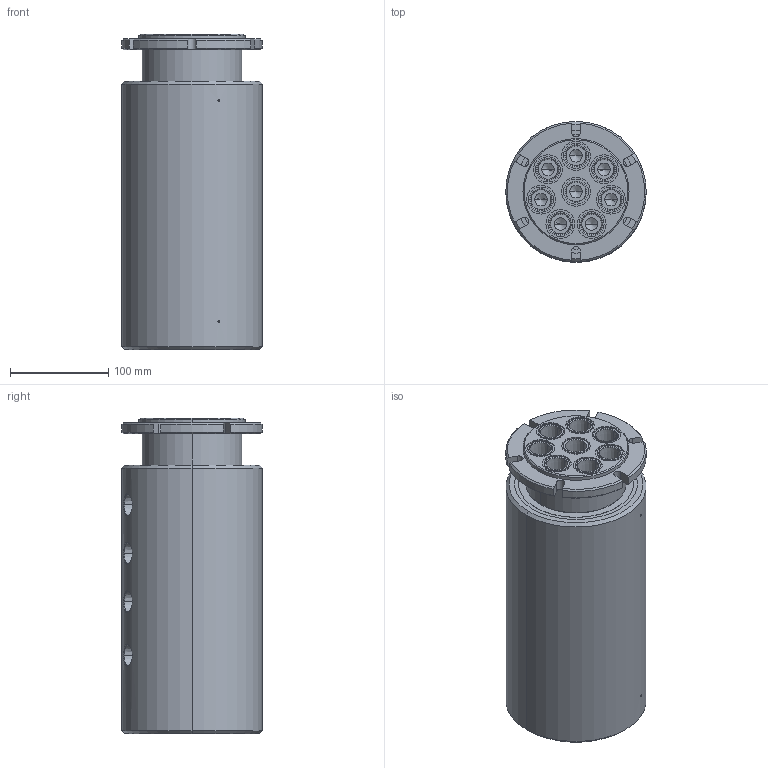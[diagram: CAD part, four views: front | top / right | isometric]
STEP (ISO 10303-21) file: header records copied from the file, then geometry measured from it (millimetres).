
FILE_DESCRIPTION (( 'STEP AP214' ), '1' );
FILE_NAME ('GP(M)-480.STEP', '2013-02-06T13:37:59', ( '' ), ( '' ), 'SwSTEP 2.0', 'SolidWorks 2011', '' );
FILE_SCHEMA (( 'AUTOMOTIVE_DESIGN' ));
Length unit declared in the file: inch
Products named in the file (1): GP(M)-480
Bounding box: 142.88 x 142.88 x 320.98 mm (x, y, z)
Volume: 4657207.1 mm3; surface area: 222045.5 mm2
Topology: 1 solids, 1 shells, 321 faces, 758 edges, 459 vertices
Faces by surface type: cylinder 126, cone 114, plane 63, bspline 16, torus 2
Entity records: 11786 total; most frequent: CARTESIAN_POINT 4189, DIRECTION 1563, ORIENTED_EDGE 1420, EDGE_CURVE 710, AXIS2_PLACEMENT_3D 643, VERTEX_POINT 459, EDGE_LOOP 389, CIRCLE 337
